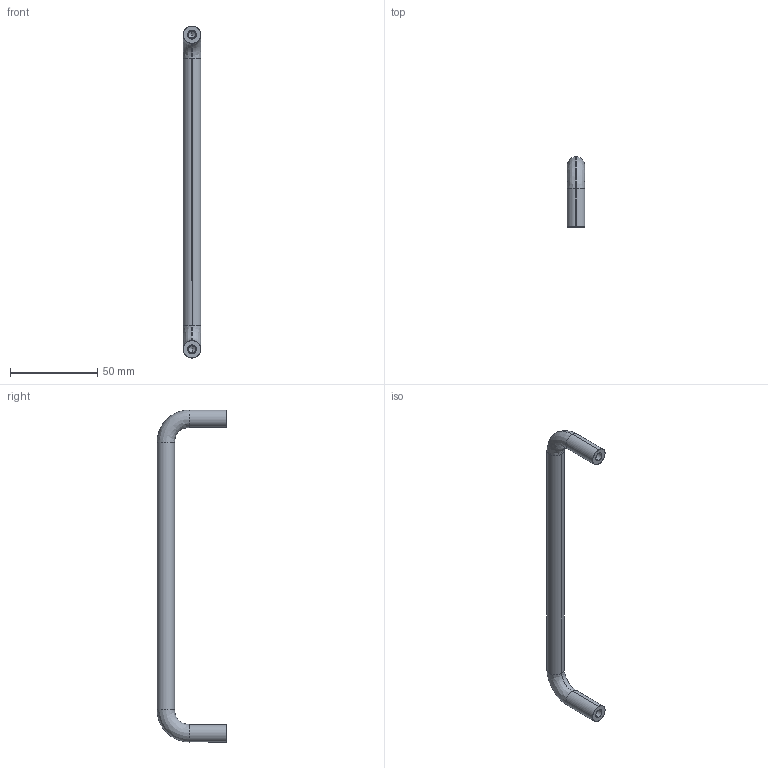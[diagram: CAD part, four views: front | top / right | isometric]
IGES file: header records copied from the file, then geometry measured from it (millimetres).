
Start section: SolidWorks IGES file using analytic representation for surfaces
Global section: file name: C:\Users\IanO\Desktop\Temp File\Process pending\79840_v2\79840_v2_20171115_IGES\79840.W0018.igs; native system: SolidWorks 2017; preprocessor: SolidWorks 2017; author: IanO; date: 171115.103718; units: millimetre
Bounding box: 10 x 40 x 190 mm (x, y, z)
Surface area: 8005 mm2 (no closed solid volume)
Topology: 0 solids, 0 shells, 26 faces, 344 edges, 340 vertices
Faces by surface type: revolution 18, bspline 8
